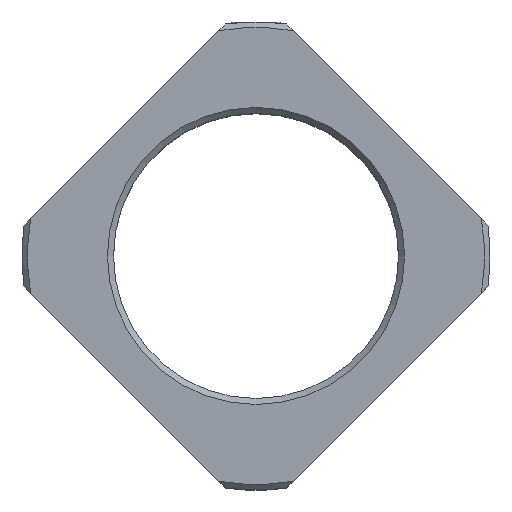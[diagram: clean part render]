
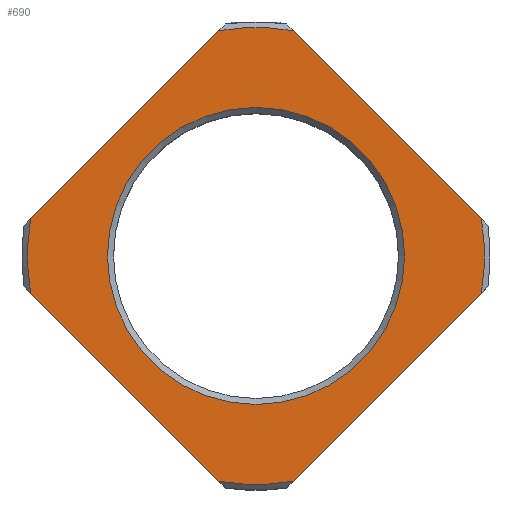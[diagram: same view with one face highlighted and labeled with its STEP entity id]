
A CAD part, top view. The second image highlights one B-rep face of the part: STEP entity #690.
In plain terms, the highlighted planar face has unit normal (0, 0, 1).
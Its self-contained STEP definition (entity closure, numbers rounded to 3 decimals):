
#32=PLANE('',#751);
#53=LINE('',#1060,#99);
#54=LINE('',#1064,#100);
#55=LINE('',#1068,#101);
#56=LINE('',#1072,#102);
#99=VECTOR('',#843,1000.);
#100=VECTOR('',#846,1000.);
#101=VECTOR('',#849,1000.);
#102=VECTOR('',#852,1000.);
#177=ORIENTED_EDGE('',*,*,#375,.F.);
#178=ORIENTED_EDGE('',*,*,#376,.T.);
#179=ORIENTED_EDGE('',*,*,#377,.F.);
#180=ORIENTED_EDGE('',*,*,#378,.T.);
#181=ORIENTED_EDGE('',*,*,#379,.F.);
#182=ORIENTED_EDGE('',*,*,#380,.T.);
#183=ORIENTED_EDGE('',*,*,#381,.F.);
#184=ORIENTED_EDGE('',*,*,#382,.T.);
#185=ORIENTED_EDGE('',*,*,#383,.T.);
#375=EDGE_CURVE('',#475,#476,#541,.T.);
#376=EDGE_CURVE('',#475,#477,#53,.T.);
#377=EDGE_CURVE('',#478,#477,#542,.T.);
#378=EDGE_CURVE('',#478,#479,#54,.T.);
#379=EDGE_CURVE('',#480,#479,#543,.T.);
#380=EDGE_CURVE('',#480,#481,#55,.T.);
#381=EDGE_CURVE('',#482,#481,#544,.T.);
#382=EDGE_CURVE('',#482,#476,#56,.T.);
#383=EDGE_CURVE('',#483,#483,#545,.T.);
#475=VERTEX_POINT('',#1058);
#476=VERTEX_POINT('',#1059);
#477=VERTEX_POINT('',#1061);
#478=VERTEX_POINT('',#1063);
#479=VERTEX_POINT('',#1065);
#480=VERTEX_POINT('',#1067);
#481=VERTEX_POINT('',#1069);
#482=VERTEX_POINT('',#1071);
#483=VERTEX_POINT('',#1074);
#541=CIRCLE('',#752,30.75);
#542=CIRCLE('',#753,30.75);
#543=CIRCLE('',#754,30.75);
#544=CIRCLE('',#755,30.75);
#545=CIRCLE('',#756,20.);
#576=EDGE_LOOP('',(#177,#178,#179,#180,#181,#182,#183,#184));
#577=EDGE_LOOP('',(#185));
#630=FACE_BOUND('',#576,.T.);
#631=FACE_BOUND('',#577,.T.);
#690=ADVANCED_FACE('',(#630,#631),#32,.F.);
#751=AXIS2_PLACEMENT_3D('',#1056,#839,#840);
#752=AXIS2_PLACEMENT_3D('',#1057,#841,#842);
#753=AXIS2_PLACEMENT_3D('',#1062,#844,#845);
#754=AXIS2_PLACEMENT_3D('',#1066,#847,#848);
#755=AXIS2_PLACEMENT_3D('',#1070,#850,#851);
#756=AXIS2_PLACEMENT_3D('',#1073,#853,#854);
#839=DIRECTION('',(0.,0.,-1.));
#840=DIRECTION('',(-1.,0.,0.));
#841=DIRECTION('',(0.,0.,-1.));
#842=DIRECTION('',(-1.,0.,0.));
#843=DIRECTION('',(-0.707,-0.707,0.));
#844=DIRECTION('',(0.,0.,-1.));
#845=DIRECTION('',(-1.,0.,0.));
#846=DIRECTION('',(0.707,-0.707,0.));
#847=DIRECTION('',(0.,0.,-1.));
#848=DIRECTION('',(-1.,0.,0.));
#849=DIRECTION('',(0.707,0.707,0.));
#850=DIRECTION('',(0.,0.,-1.));
#851=DIRECTION('',(-1.,0.,0.));
#852=DIRECTION('',(-0.707,0.707,0.));
#853=DIRECTION('',(0.,0.,-1.));
#854=DIRECTION('',(-1.,0.,0.));
#1056=CARTESIAN_POINT('',(0.,0.,25.));
#1057=CARTESIAN_POINT('',(0.,0.,25.));
#1058=CARTESIAN_POINT('',(-5.017,30.338,25.));
#1059=CARTESIAN_POINT('',(5.017,30.338,25.));
#1060=CARTESIAN_POINT('',(0.,35.355,25.));
#1061=CARTESIAN_POINT('',(-30.338,5.017,25.));
#1062=CARTESIAN_POINT('',(0.,0.,25.));
#1063=CARTESIAN_POINT('',(-30.338,-5.017,25.));
#1064=CARTESIAN_POINT('',(-35.355,0.,25.));
#1065=CARTESIAN_POINT('',(-5.017,-30.338,25.));
#1066=CARTESIAN_POINT('',(0.,0.,25.));
#1067=CARTESIAN_POINT('',(5.017,-30.338,25.));
#1068=CARTESIAN_POINT('',(0.,-35.355,25.));
#1069=CARTESIAN_POINT('',(30.338,-5.017,25.));
#1070=CARTESIAN_POINT('',(0.,0.,25.));
#1071=CARTESIAN_POINT('',(30.338,5.017,25.));
#1072=CARTESIAN_POINT('',(35.355,0.,25.));
#1073=CARTESIAN_POINT('',(0.,0.,25.));
#1074=CARTESIAN_POINT('',(-20.,0.,25.));
